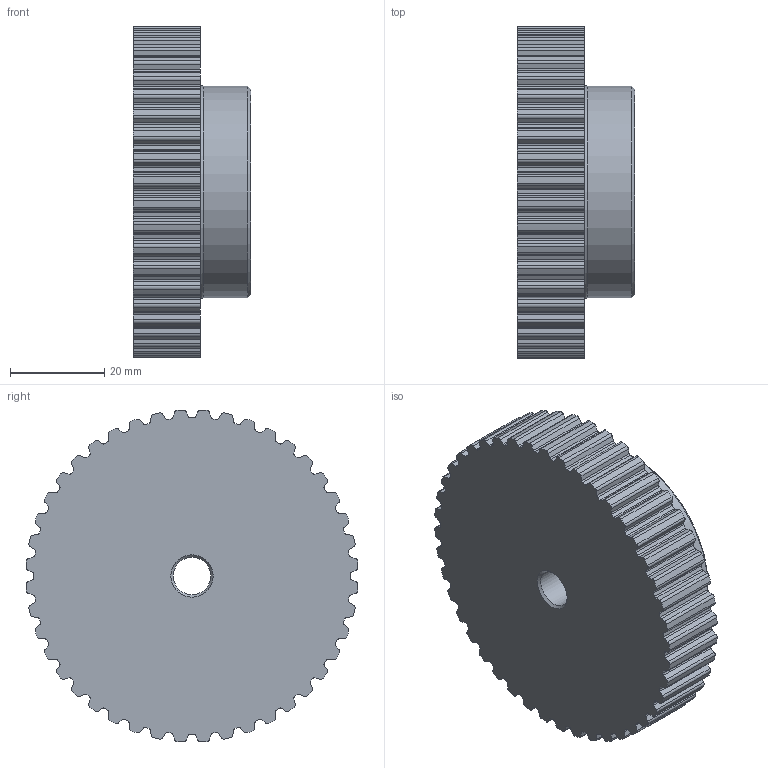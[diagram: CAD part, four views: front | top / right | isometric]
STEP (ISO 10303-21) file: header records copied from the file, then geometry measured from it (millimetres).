
FILE_DESCRIPTION(/* description */ ('PULEGGE 44 XL 037'),/* implementation_level */ '2;1');
FILE_NAME(/* name */ 'w:\documenti\Disegni dwg\Catalogo\Pulegge\XL\037\stp (caricati)\42037144.stp',/* time_stamp */ '2023-06-08T11:06:39+02:00',/* author */ ('carlo.bersi'),/* organization */ (''),/* preprocessor_version */ 'ST-DEVELOPER v19',/* originating_system */ 'Autodesk Inventor 2023',/* authorisation */ '');
FILE_SCHEMA (('CONFIG_CONTROL_DESIGN'));
Length unit declared in the file: millimetre
Products named in the file (1): 42037144
Bounding box: 25 x 70.54 x 70.54 mm (x, y, z)
Volume: 69596.3 mm3; surface area: 13737.7 mm2
Topology: 1 solids, 1 shells, 361 faces, 1071 edges, 713 vertices
Faces by surface type: cylinder 222, plane 135, cone 3, torus 1
Full cylindrical faces by diameter (mm): 8 x1, 45 x1
Entity records: 12318 total; most frequent: DIRECTION 2245, CARTESIAN_POINT 2146, ORIENTED_EDGE 2142, EDGE_CURVE 1071, AXIS2_PLACEMENT_3D 812, VERTEX_POINT 713, LINE 621, VECTOR 621
